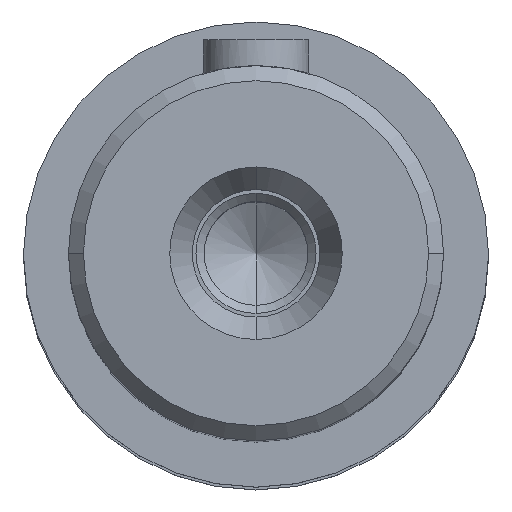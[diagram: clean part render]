
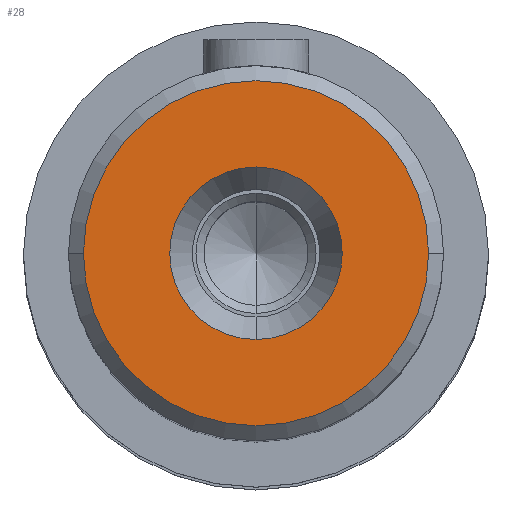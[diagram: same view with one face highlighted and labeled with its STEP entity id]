
A CAD part, top view. The second image highlights one B-rep face of the part: STEP entity #28.
In plain terms, the highlighted planar face has unit normal (0, 0, 1) as drawn and (1, 0, 0) by its records, which use the part's own axes.
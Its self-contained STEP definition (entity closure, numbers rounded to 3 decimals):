
#28=ADVANCED_FACE('',(#90,#76),#762,.T.);
#76=FACE_BOUND('',#149,.T.);
#90=FACE_OUTER_BOUND('',#148,.T.);
#148=EDGE_LOOP('',(#242,#243));
#149=EDGE_LOOP('',(#244,#245));
#242=ORIENTED_EDGE('',*,*,#430,.F.);
#243=ORIENTED_EDGE('',*,*,#433,.F.);
#244=ORIENTED_EDGE('',*,*,#503,.F.);
#245=ORIENTED_EDGE('',*,*,#462,.F.);
#430=EDGE_CURVE('',#693,#696,#578,.T.);
#433=EDGE_CURVE('',#696,#693,#580,.T.);
#462=EDGE_CURVE('',#695,#735,#592,.T.);
#503=EDGE_CURVE('',#735,#695,#615,.T.);
#578=TRIMMED_CURVE($,#631,(#1563),(#1564),.T.,.CARTESIAN.);
#580=TRIMMED_CURVE($,#633,(#1571),(#1572),.T.,.CARTESIAN.);
#592=TRIMMED_CURVE($,#645,(#1641),(#1642),.T.,.CARTESIAN.);
#615=TRIMMED_CURVE($,#668,(#1746),(#1747),.T.,.CARTESIAN.);
#631=CIRCLE('',#1016,23.);
#633=CIRCLE('',#1018,23.);
#645=CIRCLE('',#1030,11.5);
#668=CIRCLE('',#1053,11.5);
#693=VERTEX_POINT('',#1428);
#695=VERTEX_POINT('',#1430);
#696=VERTEX_POINT('',#1431);
#735=VERTEX_POINT('',#1470);
#762=PLANE('',#980);
#980=AXIS2_PLACEMENT_3D('',#1233,#1075,$);
#1016=AXIS2_PLACEMENT_3D($,#1562,#1120,#1121);
#1018=AXIS2_PLACEMENT_3D($,#1570,#1124,#1125);
#1030=AXIS2_PLACEMENT_3D($,#1640,#1148,#1149);
#1053=AXIS2_PLACEMENT_3D($,#1745,#1194,#1195);
#1075=DIRECTION('',(1.,0.,0.));
#1120=DIRECTION('',(-1.,0.,0.));
#1121=DIRECTION('',(0.,0.,1.));
#1124=DIRECTION('',(-1.,0.,0.));
#1125=DIRECTION('',(0.,0.,-1.));
#1148=DIRECTION('',(1.,0.,0.));
#1149=DIRECTION('',(0.,1.,0.));
#1194=DIRECTION('',(1.,0.,0.));
#1195=DIRECTION('',(0.,-1.,0.));
#1233=CARTESIAN_POINT('',(210.,-27.66,-27.66));
#1428=CARTESIAN_POINT('',(210.,0.,23.));
#1430=CARTESIAN_POINT('',(210.,11.5,0.));
#1431=CARTESIAN_POINT('',(210.,0.,-23.));
#1470=CARTESIAN_POINT('',(210.,-11.5,0.));
#1562=CARTESIAN_POINT('',(210.,0.,0.));
#1563=CARTESIAN_POINT('',(210.,0.,23.));
#1564=CARTESIAN_POINT('',(210.,0.,-23.));
#1570=CARTESIAN_POINT('',(210.,0.,0.));
#1571=CARTESIAN_POINT('',(210.,0.,-23.));
#1572=CARTESIAN_POINT('',(210.,0.,23.));
#1640=CARTESIAN_POINT('',(210.,0.,0.));
#1641=CARTESIAN_POINT('',(210.,11.5,0.));
#1642=CARTESIAN_POINT('',(210.,-11.5,0.));
#1745=CARTESIAN_POINT('',(210.,0.,0.));
#1746=CARTESIAN_POINT('',(210.,-11.5,0.));
#1747=CARTESIAN_POINT('',(210.,11.5,0.));
